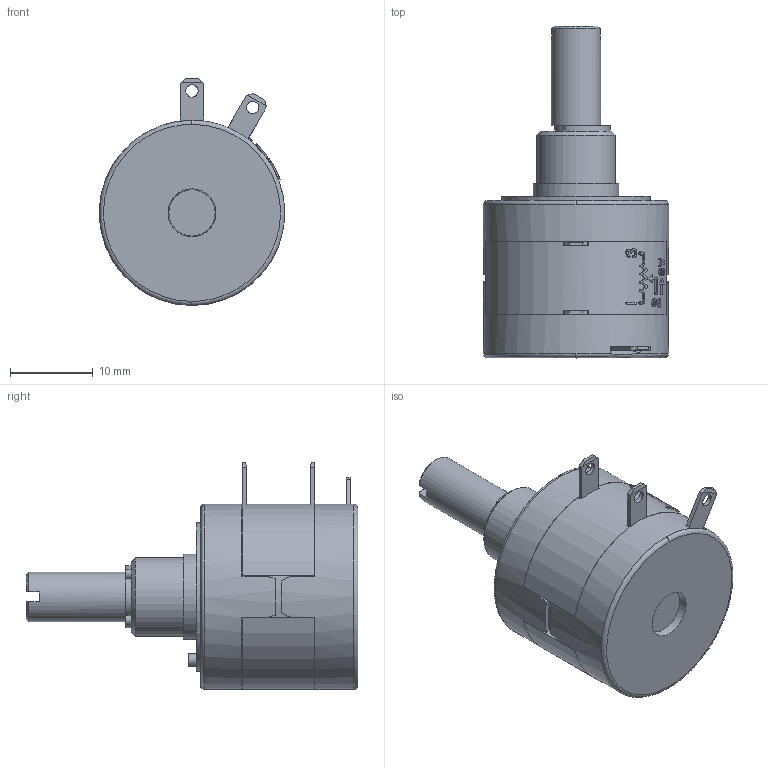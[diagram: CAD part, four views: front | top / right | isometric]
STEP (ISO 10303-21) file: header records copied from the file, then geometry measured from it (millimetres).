
FILE_DESCRIPTION (( 'STEP AP214' ), '1' );
FILE_NAME ('3D_HH19xxM_logofrei.STEP', '2019-05-16T07:19:00', ( '' ), ( '' ), 'SwSTEP 2.0', 'SolidWorks 2017', '' );
FILE_SCHEMA (( 'AUTOMOTIVE_DESIGN' ));
Length unit declared in the file: millimetre
Products named in the file (1): 3D_HH19xxM_logofrei
Bounding box: 22.4 x 40.12 x 27.45 mm (x, y, z)
Volume: 5172.5 mm3; surface area: 5568.9 mm2
Topology: 1 solids, 1 shells, 489 faces, 1439 edges, 957 vertices
Faces by surface type: bspline 198, plane 186, cylinder 84, cone 21
Full cylindrical faces by diameter (mm): 1.5 x3, 1.52 x1, 4 x1, 5.1 x1, 6 x2, 6.35 x3, 8 x1, 9.525 x1, 10.32 x1, 18 x1, 22.4 x2
Entity records: 28157 total; most frequent: CARTESIAN_POINT 16804, ORIENTED_EDGE 2808, DIRECTION 1639, EDGE_CURVE 1404, VERTEX_POINT 948, LINE 645, VECTOR 645, EDGE_LOOP 540
